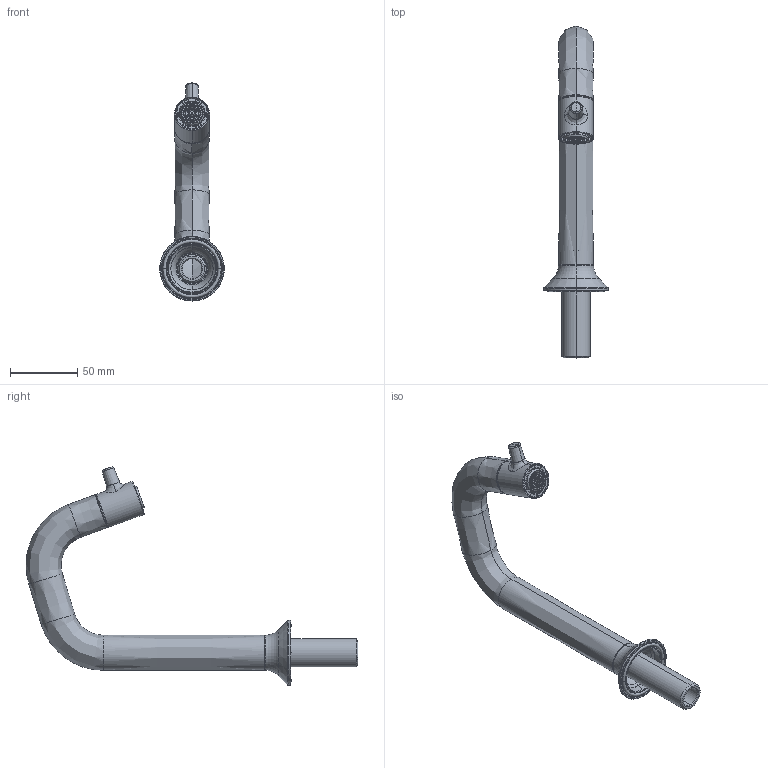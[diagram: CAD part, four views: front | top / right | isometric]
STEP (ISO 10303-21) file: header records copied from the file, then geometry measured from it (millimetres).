
FILE_DESCRIPTION((''),'2;1');
FILE_NAME('48017--00_ASM','2022-09-27T16:11:09',('sosm1'),(''),'CREO PARAMETRIC BY PTC INC, 2018190','CREO PARAMETRIC BY PTC INC, 2018190','');
FILE_SCHEMA(('CONFIG_CONTROL_DESIGN'));
Length unit declared in the file: millimetre
Products named in the file (15): 4385385; 44434--; 4385285; 43848--_ASM; 4384700; 43845--; 4384700_M; 4465500_POS01; 4465500_POS03; 4465500_POS02; 4472900_ASM; 4384684; 43849--; 4190300; 48017--00_ASM
Assembly tree (14 placements, depth 3):
  48017--00_ASM
    43848--_ASM
      4385385
      44434--
      4385285
    4384700
    43845--
    4384700_M
    4472900_ASM
      4465500_POS01
      4465500_POS03
      4465500_POS02
    4384684
    43849--
    4190300
Bounding box: 48 x 246.25 x 161.9 mm (x, y, z)
Volume: 70565.6 mm3; surface area: 82520.4 mm2
Topology: 17 solids, 24 shells, 816 faces, 2109 edges, 1344 vertices
Faces by surface type: cylinder 315, plane 299, cone 91, torus 71, bspline 36, sphere 4
Entity records: 30732 total; most frequent: CARTESIAN_POINT 10301, DIRECTION 4197, ORIENTED_EDGE 4160, EDGE_CURVE 2103, AXIS2_PLACEMENT_3D 1613, VERTEX_POINT 1344, EDGE_LOOP 997, VECTOR 971
